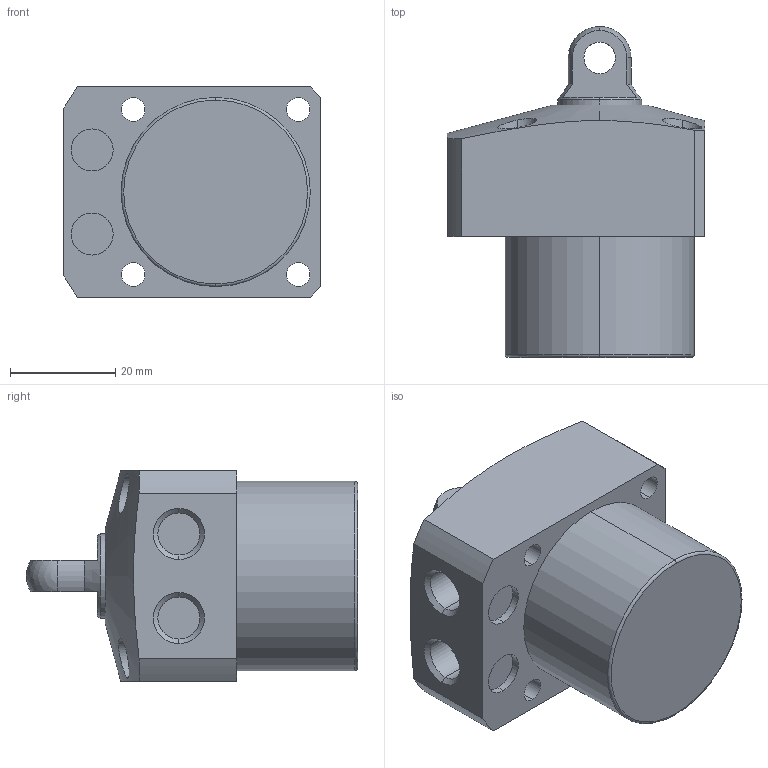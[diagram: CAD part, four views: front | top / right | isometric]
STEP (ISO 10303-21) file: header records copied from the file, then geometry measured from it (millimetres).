
FILE_DESCRIPTION (( 'STEP AP203' ), '1' );
FILE_NAME ('CLL-036CP-015.STEP', '2020-01-03T12:46:12', ( '' ), ( '' ), 'SwSTEP 2.0', 'SolidWorks 2015', '' );
FILE_SCHEMA (( 'CONFIG_CONTROL_DESIGN' ));
Length unit declared in the file: millimetre
Products named in the file (1): CLL-036CP-015
Bounding box: 49 x 63 x 40 mm (x, y, z)
Volume: 64799.9 mm3; surface area: 12649.1 mm2
Topology: 1 solids, 1 shells, 67 faces, 162 edges, 105 vertices
Faces by surface type: cylinder 34, plane 21, cone 8, sphere 2, torus 2
Entity records: 2347 total; most frequent: CARTESIAN_POINT 663, DIRECTION 354, ORIENTED_EDGE 316, EDGE_CURVE 158, AXIS2_PLACEMENT_3D 148, VERTEX_POINT 103, EDGE_LOOP 87, CIRCLE 80
